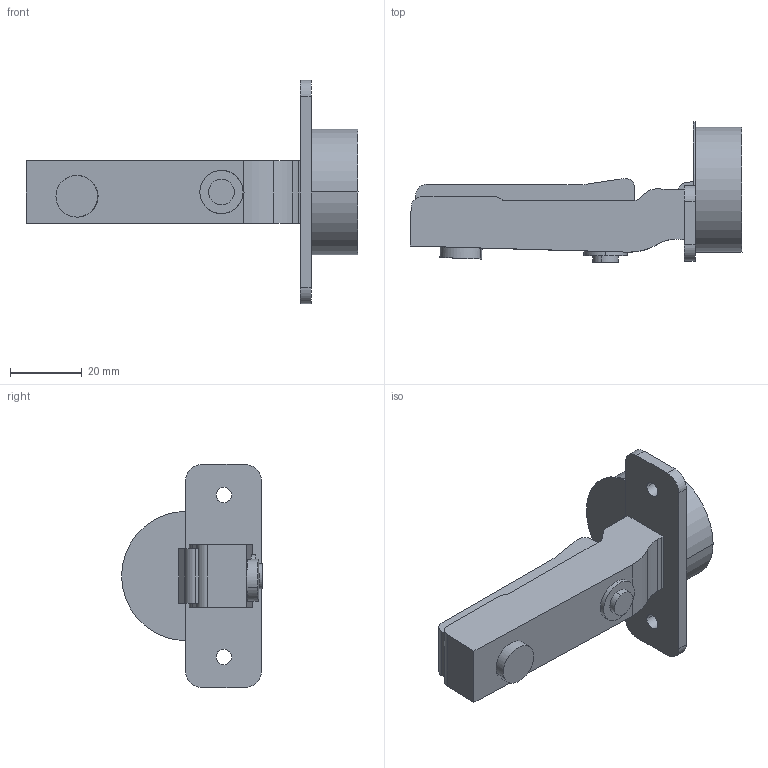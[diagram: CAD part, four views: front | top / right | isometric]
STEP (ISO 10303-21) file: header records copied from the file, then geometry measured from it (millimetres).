
FILE_DESCRIPTION (( 'STEP AP214' ), '1' );
FILE_NAME ('STA685-close.STEP', '2021-04-10T02:52:02', ( 'Windows 蚚誧' ), ( '' ), 'SwSTEP 2.0', 'SolidWorks 2018', '' );
FILE_SCHEMA (( 'AUTOMOTIVE_DESIGN' ));
Length unit declared in the file: millimetre
Products named in the file (1): STA685-close
Bounding box: 92.28 x 39.11 x 62.01 mm (x, y, z)
Volume: 39589.1 mm3; surface area: 11126 mm2
Topology: 1 solids, 1 shells, 74 faces, 206 edges, 138 vertices
Faces by surface type: plane 38, cylinder 36
Entity records: 2727 total; most frequent: CARTESIAN_POINT 434, DIRECTION 423, ORIENTED_EDGE 412, EDGE_CURVE 206, AXIS2_PLACEMENT_3D 147, VERTEX_POINT 138, VECTOR 129, LINE 129
